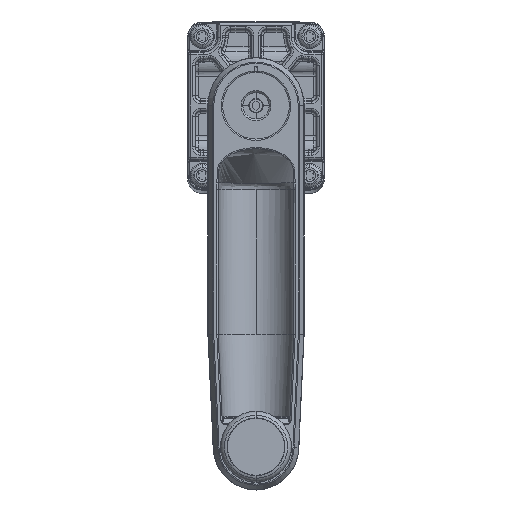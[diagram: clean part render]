
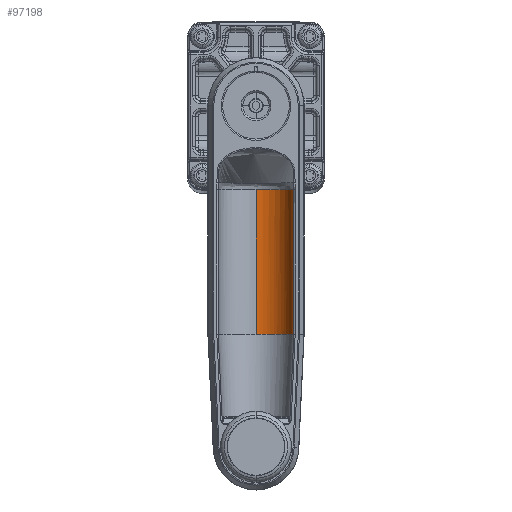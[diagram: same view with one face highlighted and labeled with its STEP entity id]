
A CAD part, top view. The second image highlights one B-rep face of the part: STEP entity #97198.
In plain terms, the highlighted cylindrical face has radius 14.25 mm (diameter 28.5 mm), a partial arc.
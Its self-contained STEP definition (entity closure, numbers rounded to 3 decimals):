
#3562 = ORIENTED_EDGE ( 'NONE', *, *, #39290, .F. ) ;
#4460 = VERTEX_POINT ( 'NONE', #66749 ) ;
#4615 = CARTESIAN_POINT ( 'NONE',  ( -5.569, 48.118, -40.717 ) ) ;
#4695 = CARTESIAN_POINT ( 'NONE',  ( -2.279, -6.882, -40.365 ) ) ;
#5688 = VECTOR ( 'NONE', #115483, 1000. ) ;
#6258 = EDGE_CURVE ( 'NONE', #101912, #11340, #58628, .T. ) ;
#8562 = LINE ( 'NONE', #97045, #5688 ) ;
#11340 = VERTEX_POINT ( 'NONE', #110966 ) ;
#12441 = CARTESIAN_POINT ( 'NONE',  ( 8.245, -6.882, -29.972 ) ) ;
#12670 = CARTESIAN_POINT ( 'NONE',  ( 2.369, -6.882, -38.385 ) ) ;
#14008 = AXIS2_PLACEMENT_3D ( 'NONE', #19080, #83072, #28277 ) ;
#14338 = CYLINDRICAL_SURFACE ( 'NONE', #16170, 14.25 ) ;
#16170 = AXIS2_PLACEMENT_3D ( 'NONE', #70044, #42400, #79227 ) ;
#18323 = CARTESIAN_POINT ( 'NONE',  ( -5.569, -6.882, -40.717 ) ) ;
#18454 = CARTESIAN_POINT ( 'NONE',  ( 8.681, 48.118, -26.467 ) ) ;
#19080 = CARTESIAN_POINT ( 'NONE',  ( -5.569, 48.118, -26.467 ) ) ;
#19117 = CARTESIAN_POINT ( 'NONE',  ( 8.691, -6.882, -26.467 ) ) ;
#19898 = CARTESIAN_POINT ( 'NONE',  ( 7.639, -6.882, -31.879 ) ) ;
#20275 = CARTESIAN_POINT ( 'NONE',  ( 7.239, -6.882, -32.731 ) ) ;
#21336 = VERTEX_POINT ( 'NONE', #109038 ) ;
#24078 = CARTESIAN_POINT ( 'NONE',  ( 8.245, -6.882, -29.972 ) ) ;
#24461 = CARTESIAN_POINT ( 'NONE',  ( 8.092, -6.882, -30.526 ) ) ;
#24903 = B_SPLINE_CURVE_WITH_KNOTS ( 'NONE', 3,
 ( #59443, #4695, #87053, #32257 ),
 .UNSPECIFIED., .F., .F.,
 ( 4, 4 ),
 ( 0.405, 0.47 ),
 .UNSPECIFIED. ) ;
#25682 = VERTEX_POINT ( 'NONE', #99272 ) ;
#27084 = B_SPLINE_CURVE_WITH_KNOTS ( 'NONE', 3,
 ( #94629, #103748, #67443, #12670, #76642 ),
 .UNSPECIFIED., .F., .F.,
 ( 4, 1, 4 ),
 ( 0.155, 0.25, 0.345 ),
 .UNSPECIFIED. ) ;
#28277 = DIRECTION ( 'NONE',  ( 0., 0., 1. ) ) ;
#28313 = CARTESIAN_POINT ( 'NONE',  ( 8.534, -6.882, -28.826 ) ) ;
#30170 = B_SPLINE_CURVE_WITH_KNOTS ( 'NONE', 3,
 ( #24078, #51227, #79232, #24461 ),
 .UNSPECIFIED., .F., .F.,
 ( 4, 4 ),
 ( 0.079, 0.092 ),
 .UNSPECIFIED. ) ;
#32257 = CARTESIAN_POINT ( 'NONE',  ( -4.203, -6.882, -40.652 ) ) ;
#33303 = CARTESIAN_POINT ( 'NONE',  ( -0.928, -6.882, -39.947 ) ) ;
#39290 = EDGE_CURVE ( 'NONE', #25682, #21336, #82431, .T. ) ;
#40793 = CARTESIAN_POINT ( 'NONE',  ( -5.569, 48.118, -40.717 ) ) ;
#42400 = DIRECTION ( 'NONE',  ( 0., -1., 0. ) ) ;
#46901 = B_SPLINE_CURVE_WITH_KNOTS ( 'NONE', 3,
 ( #69724, #51316, #88100, #33303, #97291 ),
 .UNSPECIFIED., .F., .F.,
 ( 4, 1, 4 ),
 ( 0.345, 0.375, 0.405 ),
 .UNSPECIFIED. ) ;
#50531 = DIRECTION ( 'NONE',  ( 0., -1., 0. ) ) ;
#51227 = CARTESIAN_POINT ( 'NONE',  ( 8.196, -6.882, -30.157 ) ) ;
#51316 = CARTESIAN_POINT ( 'NONE',  ( 0.718, -6.882, -39.263 ) ) ;
#52412 = VERTEX_POINT ( 'NONE', #18454 ) ;
#53337 = LINE ( 'NONE', #4615, #93420 ) ;
#53871 = ORIENTED_EDGE ( 'NONE', *, *, #91731, .T. ) ;
#55080 = EDGE_CURVE ( 'NONE', #52412, #109328, #64584, .T. ) ;
#55488 = CARTESIAN_POINT ( 'NONE',  ( 8.691, -6.882, -26.467 ) ) ;
#55871 = EDGE_CURVE ( 'NONE', #96612, #101912, #30170, .T. ) ;
#55968 = B_SPLINE_CURVE_WITH_KNOTS ( 'NONE', 3,
 ( #110235, #55488, #19117, #83097, #28313, #92277 ),
 .UNSPECIFIED., .F., .F.,
 ( 4, 2, 4 ),
 ( 0., 0., 0.079 ),
 .UNSPECIFIED. ) ;
#58585 = ORIENTED_EDGE ( 'NONE', *, *, #60522, .F. ) ;
#58628 = B_SPLINE_CURVE_WITH_KNOTS ( 'NONE', 3,
 ( #75040, #83842, #19898, #20275, #84258 ),
 .UNSPECIFIED., .F., .F.,
 ( 4, 1, 4 ),
 ( 0.092, 0.125, 0.155 ),
 .UNSPECIFIED. ) ;
#59443 = CARTESIAN_POINT ( 'NONE',  ( -1.351, -6.882, -40.079 ) ) ;
#60522 = EDGE_CURVE ( 'NONE', #117079, #4460, #46901, .T. ) ;
#63894 = CARTESIAN_POINT ( 'NONE',  ( -4.657, -6.882, -40.695 ) ) ;
#64584 = CIRCLE ( 'NONE', #14008, 14.25 ) ;
#64982 = ORIENTED_EDGE ( 'NONE', *, *, #85455, .F. ) ;
#66749 = CARTESIAN_POINT ( 'NONE',  ( -1.351, -6.882, -40.079 ) ) ;
#67443 = CARTESIAN_POINT ( 'NONE',  ( 4.672, -6.882, -36.681 ) ) ;
#67825 = ORIENTED_EDGE ( 'NONE', *, *, #6258, .F. ) ;
#69724 = CARTESIAN_POINT ( 'NONE',  ( 1.114, -6.882, -39.053 ) ) ;
#70044 = CARTESIAN_POINT ( 'NONE',  ( -5.569, 48.118, -26.467 ) ) ;
#73094 = CARTESIAN_POINT ( 'NONE',  ( -5.113, -6.882, -40.717 ) ) ;
#75040 = CARTESIAN_POINT ( 'NONE',  ( 8.092, -6.882, -30.526 ) ) ;
#76642 = CARTESIAN_POINT ( 'NONE',  ( 1.114, -6.882, -39.053 ) ) ;
#79227 = DIRECTION ( 'NONE',  ( 0., 0., -1. ) ) ;
#79232 = CARTESIAN_POINT ( 'NONE',  ( 8.145, -6.882, -30.342 ) ) ;
#80553 = CARTESIAN_POINT ( 'NONE',  ( 8.092, -6.882, -30.526 ) ) ;
#82431 = B_SPLINE_CURVE_WITH_KNOTS ( 'NONE', 3,
 ( #118678, #63894, #73094, #18323 ),
 .UNSPECIFIED., .F., .F.,
 ( 4, 4 ),
 ( 0.47, 0.5 ),
 .UNSPECIFIED. ) ;
#83072 = DIRECTION ( 'NONE',  ( 0., 1., 0. ) ) ;
#83097 = CARTESIAN_POINT ( 'NONE',  ( 8.685, -6.882, -27.645 ) ) ;
#83842 = CARTESIAN_POINT ( 'NONE',  ( 7.953, -6.882, -30.992 ) ) ;
#84258 = CARTESIAN_POINT ( 'NONE',  ( 7.027, -6.882, -33.132 ) ) ;
#85455 = EDGE_CURVE ( 'NONE', #87192, #96612, #55968, .T. ) ;
#87053 = CARTESIAN_POINT ( 'NONE',  ( -3.237, -6.882, -40.557 ) ) ;
#87192 = VERTEX_POINT ( 'NONE', #116551 ) ;
#88100 = CARTESIAN_POINT ( 'NONE',  ( -0.088, -6.882, -39.644 ) ) ;
#91731 = EDGE_CURVE ( 'NONE', #109328, #21336, #53337, .T. ) ;
#92277 = CARTESIAN_POINT ( 'NONE',  ( 8.245, -6.882, -29.972 ) ) ;
#93420 = VECTOR ( 'NONE', #50531, 1000. ) ;
#94629 = CARTESIAN_POINT ( 'NONE',  ( 7.027, -6.882, -33.132 ) ) ;
#95993 = ORIENTED_EDGE ( 'NONE', *, *, #55080, .T. ) ;
#96612 = VERTEX_POINT ( 'NONE', #12441 ) ;
#97045 = CARTESIAN_POINT ( 'NONE',  ( 8.681, 48.118, -26.467 ) ) ;
#97198 = ADVANCED_FACE ( 'NONE', ( #105143 ), #14338, .F. ) ;
#97291 = CARTESIAN_POINT ( 'NONE',  ( -1.351, -6.882, -40.079 ) ) ;
#99272 = CARTESIAN_POINT ( 'NONE',  ( -4.203, -6.882, -40.652 ) ) ;
#101912 = VERTEX_POINT ( 'NONE', #80553 ) ;
#103748 = CARTESIAN_POINT ( 'NONE',  ( 6.367, -6.882, -34.377 ) ) ;
#105143 = FACE_OUTER_BOUND ( 'NONE', #114294, .T. ) ;
#106908 = ORIENTED_EDGE ( 'NONE', *, *, #116272, .F. ) ;
#108271 = ORIENTED_EDGE ( 'NONE', *, *, #113416, .F. ) ;
#109038 = CARTESIAN_POINT ( 'NONE',  ( -5.569, -6.882, -40.717 ) ) ;
#109328 = VERTEX_POINT ( 'NONE', #40793 ) ;
#110235 = CARTESIAN_POINT ( 'NONE',  ( 8.691, -6.882, -26.467 ) ) ;
#110802 = ORIENTED_EDGE ( 'NONE', *, *, #55871, .F. ) ;
#110966 = CARTESIAN_POINT ( 'NONE',  ( 7.027, -6.882, -33.132 ) ) ;
#111548 = ORIENTED_EDGE ( 'NONE', *, *, #114998, .F. ) ;
#113416 = EDGE_CURVE ( 'NONE', #4460, #25682, #24903, .T. ) ;
#114294 = EDGE_LOOP ( 'NONE', ( #95993, #53871, #3562, #108271, #58585, #106908, #67825, #110802, #64982, #111548 ) ) ;
#114998 = EDGE_CURVE ( 'NONE', #52412, #87192, #8562, .T. ) ;
#115483 = DIRECTION ( 'NONE',  ( 0., -1., 0. ) ) ;
#116272 = EDGE_CURVE ( 'NONE', #11340, #117079, #27084, .T. ) ;
#116551 = CARTESIAN_POINT ( 'NONE',  ( 8.691, -6.882, -26.467 ) ) ;
#116810 = CARTESIAN_POINT ( 'NONE',  ( 1.114, -6.882, -39.053 ) ) ;
#117079 = VERTEX_POINT ( 'NONE', #116810 ) ;
#118678 = CARTESIAN_POINT ( 'NONE',  ( -4.203, -6.882, -40.652 ) ) ;
